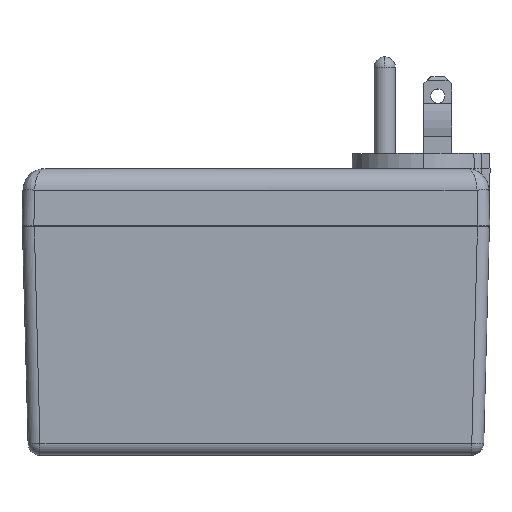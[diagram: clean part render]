
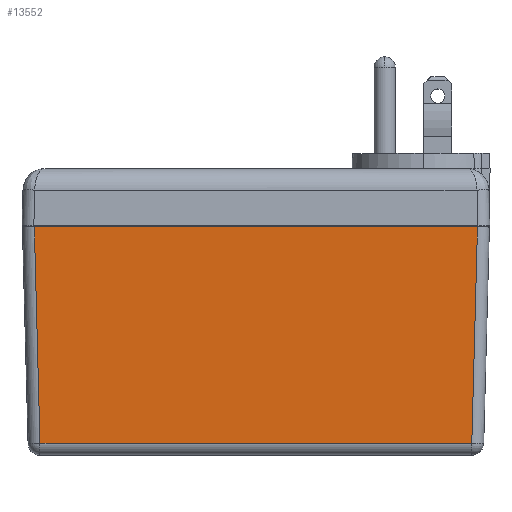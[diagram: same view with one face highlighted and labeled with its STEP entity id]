
A CAD part, top view. The second image highlights one B-rep face of the part: STEP entity #13552.
In plain terms, the highlighted planar face has unit normal (0, -0.026, 1).
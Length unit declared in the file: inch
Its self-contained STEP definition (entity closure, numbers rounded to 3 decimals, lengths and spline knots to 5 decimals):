
#1115 = VECTOR ( 'NONE', #10386, 39.37008 ) ;
#1116 = LINE ( 'NONE', #10387, #1115 ) ;
#1117 = VECTOR ( 'NONE', #10388, 39.37008 ) ;
#1118 = LINE ( 'NONE', #10389, #1117 ) ;
#1119 = VECTOR ( 'NONE', #10390, 39.37008 ) ;
#1120 = LINE ( 'NONE', #10391, #1119 ) ;
#1144 = LINE ( 'NONE', #10439, #1147 ) ;
#1147 = VECTOR ( 'NONE', #10431, 39.37008 ) ;
#1903 = DIRECTION ( 'NONE',  ( 0., -1., -0.026 ) ) ;
#1904 = DIRECTION ( 'NONE',  ( 0., -0.026, 1. ) ) ;
#1906 = PLANE ( 'NONE',  #18417 ) ;
#1907 = CARTESIAN_POINT ( 'NONE',  ( -2.0545, 0., 1.116 ) ) ;
#4462 = VERTEX_POINT ( 'NONE', #5332 ) ;
#4599 = VERTEX_POINT ( 'NONE', #5315 ) ;
#4607 = VERTEX_POINT ( 'NONE', #5314 ) ;
#5314 = CARTESIAN_POINT ( 'NONE',  ( 1.94954, 0., 1.116 ) ) ;
#5315 = CARTESIAN_POINT ( 'NONE',  ( -1.94954, 0., 1.116 ) ) ;
#5332 = CARTESIAN_POINT ( 'NONE',  ( -1.89971, -1.90275, 1.06617 ) ) ;
#7490 = EDGE_LOOP ( 'NONE', ( #21218, #21216, #21214, #21212 ) ) ;
#8195 = VERTEX_POINT ( 'NONE', #8231 ) ;
#8231 = CARTESIAN_POINT ( 'NONE',  ( 1.89971, -1.90275, 1.06617 ) ) ;
#10386 = DIRECTION ( 'NONE',  ( 1., 0., 0. ) ) ;
#10387 = CARTESIAN_POINT ( 'NONE',  ( -2.0545, 0., 1.116 ) ) ;
#10388 = DIRECTION ( 'NONE',  ( 0.026, -0.999, -0.026 ) ) ;
#10389 = CARTESIAN_POINT ( 'NONE',  ( -1.94961, 0.00274, 1.11607 ) ) ;
#10390 = DIRECTION ( 'NONE',  ( 0.026, 0.999, 0.026 ) ) ;
#10391 = CARTESIAN_POINT ( 'NONE',  ( 1.94679, -0.10471, 1.11326 ) ) ;
#10431 = DIRECTION ( 'NONE',  ( 1., 0., 0. ) ) ;
#10439 = CARTESIAN_POINT ( 'NONE',  ( -2.0545, -1.90275, 1.06617 ) ) ;
#12301 = EDGE_CURVE ( 'NONE', #4462, #8195, #1144, .T. ) ;
#12315 = EDGE_CURVE ( 'NONE', #8195, #4607, #1120, .T. ) ;
#12316 = EDGE_CURVE ( 'NONE', #4599, #4462, #1118, .T. ) ;
#12317 = EDGE_CURVE ( 'NONE', #4599, #4607, #1116, .T. ) ;
#13552 = ADVANCED_FACE ( 'NONE', ( #21045 ), #1906, .T. ) ;
#18417 = AXIS2_PLACEMENT_3D ( 'NONE', #1907, #1904, #1903 ) ;
#21045 = FACE_OUTER_BOUND ( 'NONE', #7490, .T. ) ;
#21212 = ORIENTED_EDGE ( 'NONE', *, *, #12316, .T. ) ;
#21214 = ORIENTED_EDGE ( 'NONE', *, *, #12317, .F. ) ;
#21216 = ORIENTED_EDGE ( 'NONE', *, *, #12315, .T. ) ;
#21218 = ORIENTED_EDGE ( 'NONE', *, *, #12301, .T. ) ;
